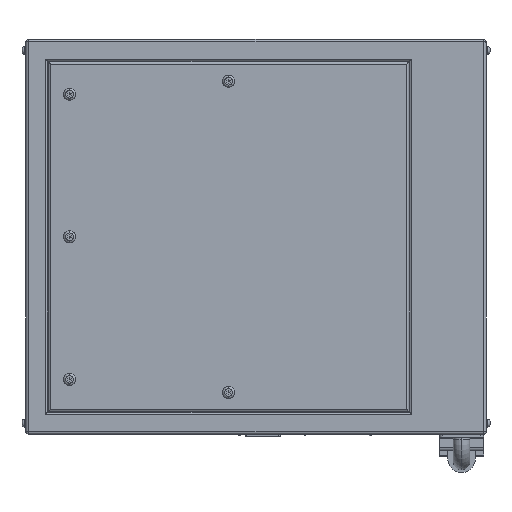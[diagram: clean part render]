
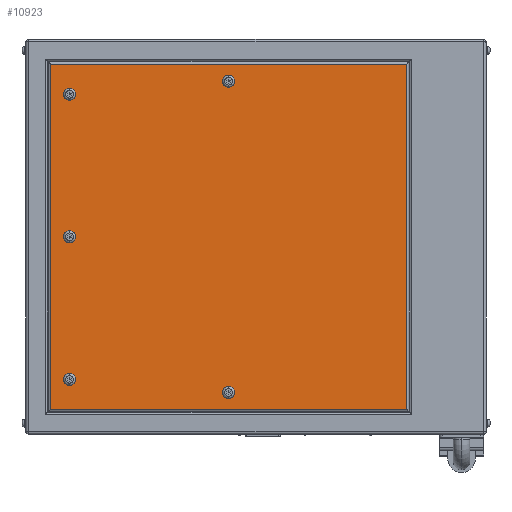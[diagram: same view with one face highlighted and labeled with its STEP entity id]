
A CAD part, left-side view. The second image highlights one B-rep face of the part: STEP entity #10923.
In plain terms, the highlighted planar face has unit normal (-1, 0, 0).
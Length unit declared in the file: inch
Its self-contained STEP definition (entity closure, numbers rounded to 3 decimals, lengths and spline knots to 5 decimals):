
#58 = CIRCLE ( 'NONE', #12875, 0.55 ) ;
#372 = EDGE_CURVE ( 'NONE', #18811, #6935, #7786, .T. ) ;
#561 = EDGE_CURVE ( 'NONE', #14225, #20725, #10217, .T. ) ;
#802 = EDGE_CURVE ( 'NONE', #1051, #8600, #19033, .T. ) ;
#845 = AXIS2_PLACEMENT_3D ( 'NONE', #15478, #3085, #6548 ) ;
#884 = ORIENTED_EDGE ( 'NONE', *, *, #11515, .T. ) ;
#893 = DIRECTION ( 'NONE',  ( 0., 0., -1. ) ) ;
#1021 = CARTESIAN_POINT ( 'NONE',  ( -11., 17., 13. ) ) ;
#1051 = VERTEX_POINT ( 'NONE', #2212 ) ;
#1078 = EDGE_CURVE ( 'NONE', #6935, #14225, #2154, .T. ) ;
#1094 = VECTOR ( 'NONE', #13659, 39.37008 ) ;
#1204 = DIRECTION ( 'NONE',  ( 1., 0., 0. ) ) ;
#1210 = CIRCLE ( 'NONE', #12209, 0.55 ) ;
#1240 = CARTESIAN_POINT ( 'NONE',  ( -11., 2.5, 14.19 ) ) ;
#1570 = FACE_BOUND ( 'NONE', #4201, .T. ) ;
#1592 = CIRCLE ( 'NONE', #11143, 0.55 ) ;
#1700 = AXIS2_PLACEMENT_3D ( 'NONE', #3783, #5189, #12174 ) ;
#1835 = AXIS2_PLACEMENT_3D ( 'NONE', #15686, #8626, #15578 ) ;
#1888 = CARTESIAN_POINT ( 'NONE',  ( -11., 17., -0.55 ) ) ;
#2107 = CIRCLE ( 'NONE', #19328, 0.55 ) ;
#2154 = LINE ( 'NONE', #17733, #13585 ) ;
#2160 = DIRECTION ( 'NONE',  ( 0., 0., 1. ) ) ;
#2212 = CARTESIAN_POINT ( 'NONE',  ( -11., 17., 12.45 ) ) ;
#2868 = CARTESIAN_POINT ( 'NONE',  ( -11., 2.5, 14.74 ) ) ;
#2906 = DIRECTION ( 'NONE',  ( 0., 0., 1. ) ) ;
#3085 = DIRECTION ( 'NONE',  ( 1., 0., 0. ) ) ;
#3213 = VERTEX_POINT ( 'NONE', #11219 ) ;
#3275 = VECTOR ( 'NONE', #2160, 39.37008 ) ;
#3336 = ORIENTED_EDGE ( 'NONE', *, *, #5792, .T. ) ;
#3400 = DIRECTION ( 'NONE',  ( 0., 0., 1. ) ) ;
#3783 = CARTESIAN_POINT ( 'NONE',  ( -11., 2.5, 14.19 ) ) ;
#4201 = EDGE_LOOP ( 'NONE', ( #3336, #20260 ) ) ;
#4391 = DIRECTION ( 'NONE',  ( 0., 0., -1. ) ) ;
#4627 = CARTESIAN_POINT ( 'NONE',  ( -11., 18.74, -18. ) ) ;
#4840 = ORIENTED_EDGE ( 'NONE', *, *, #802, .T. ) ;
#4878 = VERTEX_POINT ( 'NONE', #2868 ) ;
#4919 = FACE_BOUND ( 'NONE', #12626, .T. ) ;
#5099 = ORIENTED_EDGE ( 'NONE', *, *, #13522, .T. ) ;
#5189 = DIRECTION ( 'NONE',  ( 1., 0., 0. ) ) ;
#5252 = DIRECTION ( 'NONE',  ( 0., -1., 0. ) ) ;
#5380 = CARTESIAN_POINT ( 'NONE',  ( -11., 21., -18. ) ) ;
#5788 = DIRECTION ( 'NONE',  ( 1., 0., 0. ) ) ;
#5792 = EDGE_CURVE ( 'NONE', #10485, #12102, #9528, .T. ) ;
#5894 = AXIS2_PLACEMENT_3D ( 'NONE', #18613, #1204, #2906 ) ;
#5926 = EDGE_LOOP ( 'NONE', ( #14966, #15304 ) ) ;
#6105 = CARTESIAN_POINT ( 'NONE',  ( -11., 17., 0. ) ) ;
#6191 = CARTESIAN_POINT ( 'NONE',  ( -11., 17., 0.55 ) ) ;
#6417 = EDGE_CURVE ( 'NONE', #9277, #3213, #58, .T. ) ;
#6548 = DIRECTION ( 'NONE',  ( 0., 0., -1. ) ) ;
#6722 = ORIENTED_EDGE ( 'NONE', *, *, #15902, .T. ) ;
#6765 = CARTESIAN_POINT ( 'NONE',  ( -11., 2.5, 13.64 ) ) ;
#6865 = CARTESIAN_POINT ( 'NONE',  ( -11., -13.74, -15.74 ) ) ;
#6935 = VERTEX_POINT ( 'NONE', #15129 ) ;
#7450 = CARTESIAN_POINT ( 'NONE',  ( -11., 2.5, -13.64 ) ) ;
#7786 = LINE ( 'NONE', #21635, #3275 ) ;
#7934 = EDGE_LOOP ( 'NONE', ( #4840, #5099 ) ) ;
#8148 = ORIENTED_EDGE ( 'NONE', *, *, #10278, .T. ) ;
#8525 = EDGE_CURVE ( 'NONE', #20725, #18811, #22401, .T. ) ;
#8600 = VERTEX_POINT ( 'NONE', #13943 ) ;
#8626 = DIRECTION ( 'NONE',  ( 1., 0., 0. ) ) ;
#9126 = CARTESIAN_POINT ( 'NONE',  ( -11., 17., -13. ) ) ;
#9277 = VERTEX_POINT ( 'NONE', #7450 ) ;
#9528 = CIRCLE ( 'NONE', #20482, 0.55 ) ;
#10217 = LINE ( 'NONE', #4627, #1094 ) ;
#10278 = EDGE_CURVE ( 'NONE', #17072, #4878, #1210, .T. ) ;
#10454 = CARTESIAN_POINT ( 'NONE',  ( -11., 17., -12.45 ) ) ;
#10485 = VERTEX_POINT ( 'NONE', #12484 ) ;
#10756 = FACE_BOUND ( 'NONE', #7934, .T. ) ;
#10850 = DIRECTION ( 'NONE',  ( 1., 0., 0. ) ) ;
#10923 = ADVANCED_FACE ( 'NONE', ( #16915, #4919, #1570, #15553, #10756, #14178 ), #17466, .F. ) ;
#11088 = DIRECTION ( 'NONE',  ( 0., 0., -1. ) ) ;
#11143 = AXIS2_PLACEMENT_3D ( 'NONE', #1021, #15019, #12745 ) ;
#11184 = VERTEX_POINT ( 'NONE', #1888 ) ;
#11219 = CARTESIAN_POINT ( 'NONE',  ( -11., 2.5, -14.74 ) ) ;
#11515 = EDGE_CURVE ( 'NONE', #4878, #17072, #11969, .T. ) ;
#11814 = EDGE_LOOP ( 'NONE', ( #6722, #17221 ) ) ;
#11969 = CIRCLE ( 'NONE', #1700, 0.55 ) ;
#12102 = VERTEX_POINT ( 'NONE', #10454 ) ;
#12174 = DIRECTION ( 'NONE',  ( 0., 0., -1. ) ) ;
#12209 = AXIS2_PLACEMENT_3D ( 'NONE', #1240, #14782, #893 ) ;
#12388 = CIRCLE ( 'NONE', #17809, 0.55 ) ;
#12484 = CARTESIAN_POINT ( 'NONE',  ( -11., 17., -13.55 ) ) ;
#12626 = EDGE_LOOP ( 'NONE', ( #8148, #884 ) ) ;
#12745 = DIRECTION ( 'NONE',  ( 0., 0., -1. ) ) ;
#12875 = AXIS2_PLACEMENT_3D ( 'NONE', #21453, #5788, #3400 ) ;
#13117 = DIRECTION ( 'NONE',  ( 1., 0., 0. ) ) ;
#13237 = CIRCLE ( 'NONE', #5894, 0.55 ) ;
#13522 = EDGE_CURVE ( 'NONE', #8600, #1051, #1592, .T. ) ;
#13585 = VECTOR ( 'NONE', #16005, 39.37008 ) ;
#13659 = DIRECTION ( 'NONE',  ( 0., 0., -1. ) ) ;
#13714 = CARTESIAN_POINT ( 'NONE',  ( -11., 21., -15.74 ) ) ;
#13845 = VECTOR ( 'NONE', #5252, 39.37008 ) ;
#13943 = CARTESIAN_POINT ( 'NONE',  ( -11., 17., 13.55 ) ) ;
#14178 = FACE_OUTER_BOUND ( 'NONE', #14884, .T. ) ;
#14225 = VERTEX_POINT ( 'NONE', #20195 ) ;
#14514 = EDGE_CURVE ( 'NONE', #16771, #11184, #16184, .T. ) ;
#14636 = ORIENTED_EDGE ( 'NONE', *, *, #372, .T. ) ;
#14782 = DIRECTION ( 'NONE',  ( 1., 0., 0. ) ) ;
#14884 = EDGE_LOOP ( 'NONE', ( #18667, #14636, #22497, #15830 ) ) ;
#14966 = ORIENTED_EDGE ( 'NONE', *, *, #19242, .T. ) ;
#15019 = DIRECTION ( 'NONE',  ( 1., 0., 0. ) ) ;
#15129 = CARTESIAN_POINT ( 'NONE',  ( -11., -13.74, 15.74 ) ) ;
#15304 = ORIENTED_EDGE ( 'NONE', *, *, #14514, .T. ) ;
#15478 = CARTESIAN_POINT ( 'NONE',  ( -11., 17., 0. ) ) ;
#15553 = FACE_BOUND ( 'NONE', #5926, .T. ) ;
#15578 = DIRECTION ( 'NONE',  ( 0., 0., -1. ) ) ;
#15686 = CARTESIAN_POINT ( 'NONE',  ( -11., 17., 13. ) ) ;
#15830 = ORIENTED_EDGE ( 'NONE', *, *, #561, .T. ) ;
#15902 = EDGE_CURVE ( 'NONE', #3213, #9277, #13237, .T. ) ;
#16005 = DIRECTION ( 'NONE',  ( 0., 1., 0. ) ) ;
#16184 = CIRCLE ( 'NONE', #845, 0.55 ) ;
#16771 = VERTEX_POINT ( 'NONE', #6191 ) ;
#16915 = FACE_BOUND ( 'NONE', #11814, .T. ) ;
#17072 = VERTEX_POINT ( 'NONE', #6765 ) ;
#17221 = ORIENTED_EDGE ( 'NONE', *, *, #6417, .T. ) ;
#17466 = PLANE ( 'NONE',  #19933 ) ;
#17733 = CARTESIAN_POINT ( 'NONE',  ( -11., 21., 15.74 ) ) ;
#17809 = AXIS2_PLACEMENT_3D ( 'NONE', #6105, #13117, #4391 ) ;
#17901 = DIRECTION ( 'NONE',  ( 1., 0., 0. ) ) ;
#17935 = CARTESIAN_POINT ( 'NONE',  ( -11., 18.74, -15.74 ) ) ;
#18613 = CARTESIAN_POINT ( 'NONE',  ( -11., 2.5, -14.19 ) ) ;
#18667 = ORIENTED_EDGE ( 'NONE', *, *, #8525, .T. ) ;
#18811 = VERTEX_POINT ( 'NONE', #6865 ) ;
#18865 = DIRECTION ( 'NONE',  ( 1., 0., 0. ) ) ;
#19033 = CIRCLE ( 'NONE', #1835, 0.55 ) ;
#19105 = CARTESIAN_POINT ( 'NONE',  ( -11., 17., -13. ) ) ;
#19242 = EDGE_CURVE ( 'NONE', #11184, #16771, #12388, .T. ) ;
#19328 = AXIS2_PLACEMENT_3D ( 'NONE', #9126, #17901, #11088 ) ;
#19692 = EDGE_CURVE ( 'NONE', #12102, #10485, #2107, .T. ) ;
#19933 = AXIS2_PLACEMENT_3D ( 'NONE', #5380, #10850, #21152 ) ;
#20195 = CARTESIAN_POINT ( 'NONE',  ( -11., 18.74, 15.74 ) ) ;
#20260 = ORIENTED_EDGE ( 'NONE', *, *, #19692, .T. ) ;
#20482 = AXIS2_PLACEMENT_3D ( 'NONE', #19105, #18865, #22648 ) ;
#20725 = VERTEX_POINT ( 'NONE', #17935 ) ;
#21152 = DIRECTION ( 'NONE',  ( 0., 0., -1. ) ) ;
#21453 = CARTESIAN_POINT ( 'NONE',  ( -11., 2.5, -14.19 ) ) ;
#21635 = CARTESIAN_POINT ( 'NONE',  ( -11., -13.74, -18. ) ) ;
#22401 = LINE ( 'NONE', #13714, #13845 ) ;
#22497 = ORIENTED_EDGE ( 'NONE', *, *, #1078, .T. ) ;
#22648 = DIRECTION ( 'NONE',  ( 0., 0., -1. ) ) ;
